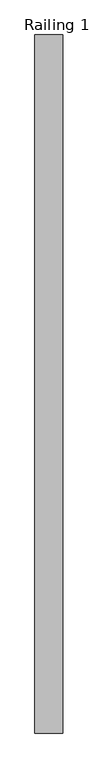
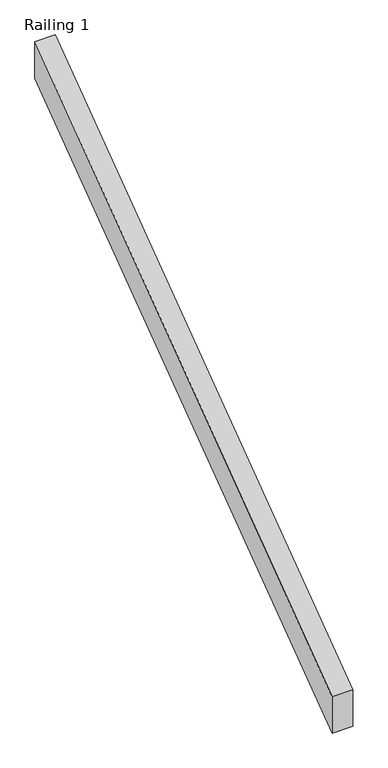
"""IFC4 building model written with IfcOpenShell, lengths in millimetres: railing geometry, Railing 1."""

from ifc_helpers import new_model, si_unit, frame, origin, place, context, project, spatial, polyline, outline, extrude, source, transform, mapped, element, save


def railing_1_ef150dfd(model_context):
    return source(origin(), model_context, "Body", "SweptSolid", [
        extrude(outline(polyline([(3900.0, 3430.5096913), (3900.0, 3525.2636528), (5170.3535639, 4464.181404), (5170.3535639, 4369.4274425), (3900.0, 3430.5096913)])), frame((25066.8558497, 0.0, 0.0), z_axis=(1.0, 0.0, 0.0), x_axis=(0.0, 1.0, 0.0)), (0.0, 0.0, 1.0), 50.8),
    ])


if __name__ == "__main__":
    model = new_model("IFC4")
    model_context = context("Model", 3, world=origin())
    ifc_project = project(units=[si_unit("LENGTHUNIT", "METRE", prefix="MILLI")], contexts=[model_context])
    site = spatial("IfcSite", under=ifc_project)
    building = spatial("IfcBuilding", under=site)
    placement = place(None, origin())
    railing_1_shape = railing_1_ef150dfd(model_context)
    element("IfcRailing", 1, ObjectType="Railing 1", at=placement, inside=building, context=model_context, shape_type="MappedRepresentation", body=[
        mapped(railing_1_shape, transform((0.0, 0.0, 0.0), x_axis=(1.0, 0.0, 0.0), y_axis=(0.0, 1.0, 0.0), z_axis=(0.0, 0.0, 1.0))),
    ])
    save(model, "model.ifc")
